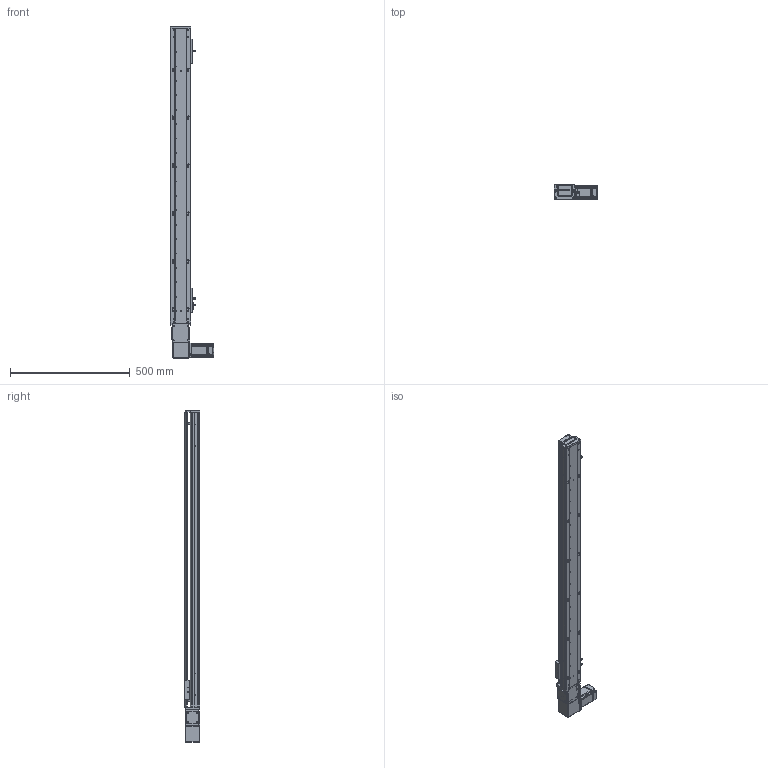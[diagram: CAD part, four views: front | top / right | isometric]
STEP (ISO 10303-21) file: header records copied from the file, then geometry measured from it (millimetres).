
FILE_DESCRIPTION (( 'STEP AP203' ), '1' );
FILE_NAME ('RY80-T-300-RK.SLDASM_1050.step', '2021-03-01T02:07:25', ( '盈信电脑' ), ( '东莞市道滘镇水果街19号' ), 'SwSTEP 2.0', 'SolidWorks 2012', '' );
FILE_SCHEMA (( 'CONFIG_CONTROL_DESIGN' ));
Length unit declared in the file: millimetre
Products named in the file (20): 滅袉蝶18-10; RY80-T-300-RK.SLDASM_1050; RY100-T粣創揤踡裔; RY80-T肮祭謫俋欶; RY80-T翋肮祭謫裔啣; RY80-T-M4蹟翐; RY80-T粣創揤踡輸; RY80-T萇儂假蚾啣; RY80-T肮祭湍揤輸2; RY80-T肮祭湍揤輸1; RY80-T-翋肮祭謫釱; 1; RY80俋离覜茼え; 侂狟200W萇儂; 672嫖萇羲壽假蚾釱; 覜茼ん672; RY80-T-300-RK倰第奻裔啣_1050; RY80-T綴裔啣; RY80-T-300-RK倰第菁釱_1050; RY80-T肮祭謫臏賑輸
Assembly tree (25 placements, depth 3):
  RY80-T-300-RK.SLDASM_1050
    RY80-T-300-RK倰第菁釱_1050
    RY80-T肮祭謫臏賑輸
    RY80-T-300-RK倰第奻裔啣_1050
    RY80-T綴裔啣
    672嫖萇羲壽假蚾釱  x2
    覜茼ん672  x3
    RY80俋离覜茼え
    侂狟200W萇儂
      1
    RY80-T-翋肮祭謫釱
    RY80-T萇儂假蚾啣
    RY80-T肮祭湍揤輸1
    RY80-T肮祭湍揤輸2
    RY80-T粣創揤踡輸
    RY80-T-M4蹟翐  x2
    RY80-T翋肮祭謫裔啣  x2
    RY80-T肮祭謫俋欶
    滅袉蝶18-10  x2
    RY100-T粣創揤踡裔
Bounding box: 180 x 65 x 1385 mm (x, y, z)
Volume: 2259516.3 mm3; surface area: 942978.1 mm2
Topology: 24 solids, 24 shells, 2457 faces, 6758 edges, 4391 vertices
Faces by surface type: plane 1324, cylinder 929, cone 148, bspline 56
Entity records: 76852 total; most frequent: CARTESIAN_POINT 18283, ORIENTED_EDGE 11960, DIRECTION 11328, EDGE_CURVE 5980, VERTEX_POINT 3932, AXIS2_PLACEMENT_3D 3809, LINE 3710, VECTOR 3710
